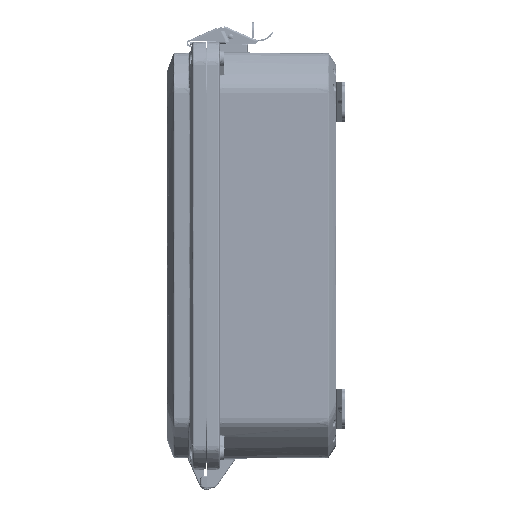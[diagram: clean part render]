
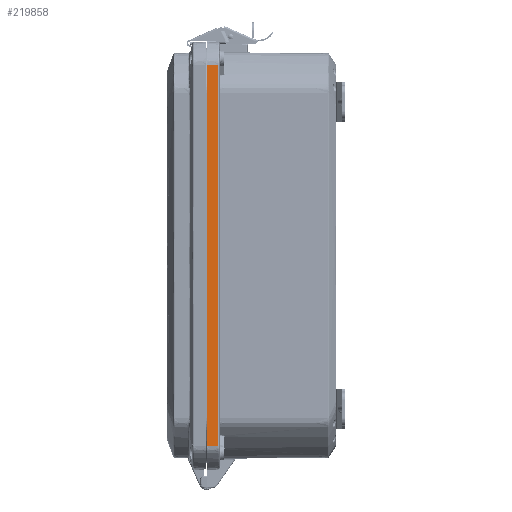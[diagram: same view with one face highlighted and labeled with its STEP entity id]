
A CAD part, left-side view. The second image highlights one B-rep face of the part: STEP entity #219858.
In plain terms, the highlighted planar face has unit normal (-0.999, -0.035, 0).
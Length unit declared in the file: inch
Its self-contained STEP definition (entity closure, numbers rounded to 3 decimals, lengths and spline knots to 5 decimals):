
#902 = CARTESIAN_POINT ( 'NONE',  ( -7.60772, -0.35174, 5.89046 ) ) ;
#2955 = VERTEX_POINT ( 'NONE', #46354 ) ;
#8225 = LINE ( 'NONE', #251817, #255440 ) ;
#11313 = CARTESIAN_POINT ( 'NONE',  ( -7.60772, -0.35174, 5.89046 ) ) ;
#16848 = ORIENTED_EDGE ( 'NONE', *, *, #126470, .F. ) ;
#24152 = DIRECTION ( 'NONE',  ( 0.035, -0.999, 0. ) ) ;
#45083 = ORIENTED_EDGE ( 'NONE', *, *, #140231, .T. ) ;
#46354 = CARTESIAN_POINT ( 'NONE',  ( -7.62, 0., 5.89046 ) ) ;
#71350 = CARTESIAN_POINT ( 'NONE',  ( -7.62, 0., 6.3 ) ) ;
#74159 = VECTOR ( 'NONE', #24152, 39.37008 ) ;
#79116 = DIRECTION ( 'NONE',  ( 0., 0., 1. ) ) ;
#82021 = EDGE_LOOP ( 'NONE', ( #45083, #16848, #187118, #188361 ) ) ;
#83685 = CARTESIAN_POINT ( 'NONE',  ( -7.62, 0., 5.89046 ) ) ;
#93125 = FACE_OUTER_BOUND ( 'NONE', #82021, .T. ) ;
#108310 = LINE ( 'NONE', #83685, #272146 ) ;
#126470 = EDGE_CURVE ( 'NONE', #2955, #236905, #108310, .T. ) ;
#126985 = VECTOR ( 'NONE', #212802, 39.37008 ) ;
#128648 = DIRECTION ( 'NONE',  ( 0.035, -0.999, 0. ) ) ;
#137240 = LINE ( 'NONE', #227096, #74159 ) ;
#140231 = EDGE_CURVE ( 'NONE', #191558, #236905, #250674, .T. ) ;
#181558 = PLANE ( 'NONE',  #208933 ) ;
#187118 = ORIENTED_EDGE ( 'NONE', *, *, #265665, .F. ) ;
#188361 = ORIENTED_EDGE ( 'NONE', *, *, #230925, .T. ) ;
#191558 = VERTEX_POINT ( 'NONE', #192230 ) ;
#192230 = CARTESIAN_POINT ( 'NONE',  ( -7.60772, -0.35174, -5.89046 ) ) ;
#208933 = AXIS2_PLACEMENT_3D ( 'NONE', #71350, #233625, #254023 ) ;
#212802 = DIRECTION ( 'NONE',  ( 0., 0., 1. ) ) ;
#219858 = ADVANCED_FACE ( 'NONE', ( #93125 ), #181558, .T. ) ;
#224451 = CARTESIAN_POINT ( 'NONE',  ( -7.62, 0., -5.89046 ) ) ;
#227096 = CARTESIAN_POINT ( 'NONE',  ( -7.62, 0., -5.89046 ) ) ;
#230925 = EDGE_CURVE ( 'NONE', #260145, #191558, #137240, .T. ) ;
#233625 = DIRECTION ( 'NONE',  ( -0.999, -0.035, 0. ) ) ;
#236905 = VERTEX_POINT ( 'NONE', #902 ) ;
#250674 = LINE ( 'NONE', #11313, #126985 ) ;
#251817 = CARTESIAN_POINT ( 'NONE',  ( -7.62, 0., 6.3 ) ) ;
#254023 = DIRECTION ( 'NONE',  ( 0.035, -0.999, 0. ) ) ;
#255440 = VECTOR ( 'NONE', #79116, 39.37008 ) ;
#260145 = VERTEX_POINT ( 'NONE', #224451 ) ;
#265665 = EDGE_CURVE ( 'NONE', #260145, #2955, #8225, .T. ) ;
#272146 = VECTOR ( 'NONE', #128648, 39.37008 ) ;
